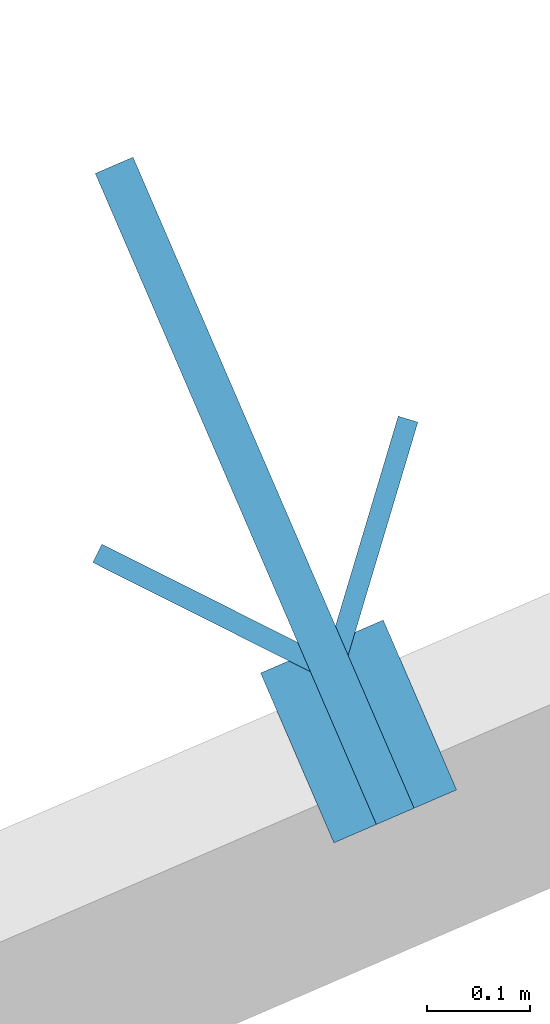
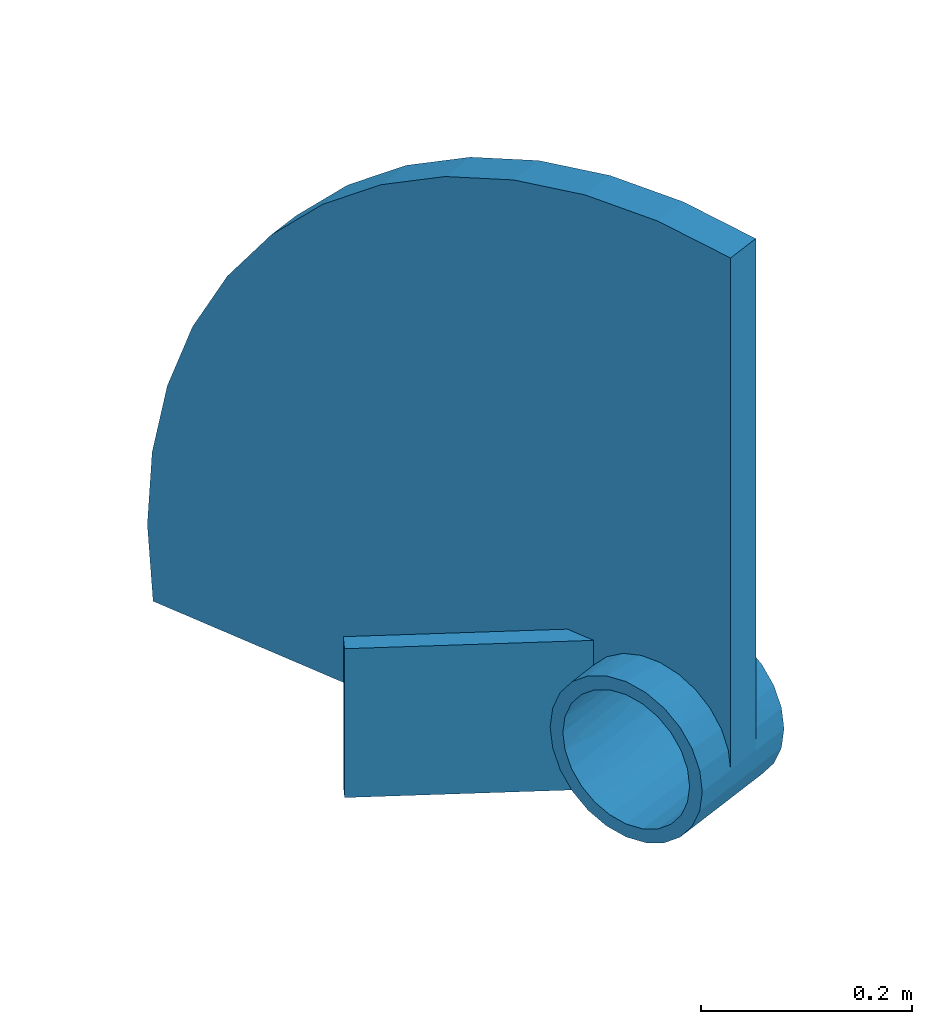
# One storey, part 5 of 5: 1 member.
"""IFC4 building model written with IfcOpenShell, lengths in metres."""

from ifc_helpers import new_model, entity, si_unit, converted_unit, derived_unit, direction, frame, origin, place, context, subcontext, project, spatial, polygons, source, transform, mapped, material, type_object, type_shapes, element, save


model = new_model("IFC4")

# Units and contexts
model_context = context("Model", 3, precision=1e-05, world=origin(), true_north=direction((6.12323399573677e-17, 1.0)))
body_context = subcontext(model_context, "Body", "Model", "MODEL_VIEW")
ifc_project = project(units=[si_unit("LENGTHUNIT", "METRE"), si_unit("AREAUNIT", "SQUARE_METRE"), si_unit("VOLUMEUNIT", "CUBIC_METRE"), converted_unit("PLANEANGLEUNIT", "DEGREE", entity("IfcPlaneAngleMeasure", 0.0174532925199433), si_unit("PLANEANGLEUNIT", "RADIAN"), dimensions=[0, 0, 0, 0, 0, 0, 0]), si_unit("MASSUNIT", "GRAM", prefix="KILO"), derived_unit("MOMENTOFINERTIAUNIT", [(si_unit("LENGTHUNIT", "METRE"), 4)]), derived_unit("LINEARFORCEUNIT", [(si_unit("MASSUNIT", "GRAM", prefix="KILO"), 1), (si_unit("TIMEUNIT", "SECOND"), -2)]), derived_unit("THERMALTRANSMITTANCEUNIT", [(si_unit("MASSUNIT", "GRAM", prefix="KILO"), 1), (si_unit("THERMODYNAMICTEMPERATUREUNIT", "KELVIN"), -1), (si_unit("TIMEUNIT", "SECOND"), -3)]), derived_unit("USERDEFINED", [(si_unit("MASSUNIT", "GRAM", prefix="KILO"), 1), (si_unit("TIMEUNIT", "SECOND"), -2), (si_unit("THERMODYNAMICTEMPERATUREUNIT", "KELVIN"), -1)]), derived_unit("THERMALRESISTANCEUNIT", [(si_unit("MASSUNIT", "GRAM", prefix="KILO"), -1), (si_unit("TIMEUNIT", "SECOND"), 3), (si_unit("THERMODYNAMICTEMPERATUREUNIT", "KELVIN"), 1)])], contexts=[model_context])

# Site, building, storey
site_placement = place(None, origin())
site = spatial("IfcSite", under=ifc_project, at=site_placement, Name="Default", CompositionType="ELEMENT")
building_placement = place(site_placement, frame((4.92348780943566, -84.5603392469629, 320.975), z_axis=(0.0, 0.0, 1.0), x_axis=(-0.396377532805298, 0.918087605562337, 0.0)))
building = spatial("IfcBuilding", under=site, at=building_placement, CompositionType="ELEMENT")
storey_placement = place(building_placement, frame((0.0, 0.0, 4.25)))
storey = spatial("IfcBuildingStorey", under=building, at=storey_placement, Name="Level 2", CompositionType="ELEMENT", Elevation=4.25)

# Member
ifc_material = material(Name="<Unnamed>")
member_type = type_object("IfcMemberType", Name="Union Metalica 4:Union Metalica 4", PredefinedType="PLATE", material=ifc_material)
shared_shape = source(origin(), body_context, "Body", "Tessellation", [
    polygons([(-0.0200000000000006, -8.12150346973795e-16, -0.09), (-0.0200000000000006, 0.020668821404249, -0.0875945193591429), (-0.0200000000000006, 0.0402169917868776, -0.0805145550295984), (-0.0200000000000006, 0.057618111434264, -0.0691386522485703), (-0.0200000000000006, 0.0719427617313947, -0.054076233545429), (-0.0200000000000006, 0.0719427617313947, -0.0900000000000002), (0.0200000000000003, 0.0719427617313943, -0.0540762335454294), (0.0200000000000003, 0.0576181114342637, -0.0691386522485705), (0.0200000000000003, 0.0402169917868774, -0.0805145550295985), (0.0200000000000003, 0.0206688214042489, -0.0875945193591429), (0.0200000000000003, -2.70716782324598e-16, -0.09), (0.0200000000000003, 0.0719427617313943, -0.0900000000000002), (-0.156966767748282, 0.266287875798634, 0.0825230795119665), (-0.172287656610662, 0.253432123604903, 0.0825230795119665), (-0.0200000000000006, 0.0719427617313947, 0.0825230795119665), (-0.0200000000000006, 0.103057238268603, 0.0825230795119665), (-0.0649999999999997, 0.09, -5.82050604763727e-16), (-0.0649999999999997, 0.0869333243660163, 0.0232937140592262), (-0.0649999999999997, 0.0779422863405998, 0.0449999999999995), (-0.0649999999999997, 0.0636396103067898, 0.0636396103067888), (-0.0649999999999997, 0.0450000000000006, 0.0779422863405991), (-0.0649999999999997, 0.0232937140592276, 0.086933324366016), (-0.0649999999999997, 6.6698289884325e-16, 0.09), (-0.0649999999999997, -0.0232937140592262, 0.0869333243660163), (-0.0649999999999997, -0.0449999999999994, 0.0779422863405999), (-0.0649999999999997, -0.0636396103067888, 0.0636396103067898), (-0.0649999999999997, -0.0779422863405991, 0.0450000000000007), (-0.0649999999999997, -0.0869333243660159, 0.0232937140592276), (-0.0649999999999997, -0.09, 8.31971483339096e-16), (-0.0200000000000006, -0.09, 8.31971483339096e-16), (-0.0200000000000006, -0.0872072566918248, 0.0222462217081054), (-0.0200000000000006, -0.0790038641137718, 0.0431090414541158), (-0.0200000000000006, -0.0658991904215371, 0.0612967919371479), (-0.0200000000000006, -0.0487071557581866, 0.0756809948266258), (-0.0200000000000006, -0.0284946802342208, 0.0853700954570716), (-0.0200000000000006, -0.00651568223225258, 0.0897638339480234), (-0.0200000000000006, 0.0158666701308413, 0.0885903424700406), (-0.0200000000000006, 0.0372644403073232, 0.0819228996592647), (-0.0200000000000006, 0.0563509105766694, 0.0701753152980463), (-0.0200000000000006, 0.071942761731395, 0.0540762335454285), (-0.0264981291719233, 0.079686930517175, 0.041832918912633), (-0.0312637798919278, 0.0853664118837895, 0.0285057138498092), (-0.0341734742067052, 0.0888340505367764, 0.0144399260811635), (-0.0351518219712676, 0.09, -7.4192272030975e-16), (0.0650000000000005, -0.09, 2.90343465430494e-16), (0.0650000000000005, -0.0869333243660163, -0.0232937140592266), (0.0650000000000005, -0.0779422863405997, -0.0449999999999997), (0.0650000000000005, -0.0636396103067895, -0.0636396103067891), (0.0650000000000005, -0.0450000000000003, -0.0779422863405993), (0.0650000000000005, -0.0232937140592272, -0.0869333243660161), (0.0650000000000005, -4.14535072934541e-16, -0.09), (0.0650000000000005, 0.0232937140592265, -0.0869333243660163), (0.0650000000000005, 0.0449999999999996, -0.0779422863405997), (0.0650000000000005, 0.0636396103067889, -0.0636396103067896), (0.0650000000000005, 0.0779422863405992, -0.0450000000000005), (0.0650000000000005, 0.086933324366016, -0.0232937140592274), (0.0650000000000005, 0.09, -4.54557967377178e-19), (0.0650000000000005, 0.0869333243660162, 0.0232937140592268), (0.0650000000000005, 0.0779422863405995, 0.045), (0.0650000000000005, 0.0636396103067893, 0.0636396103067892), (0.0650000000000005, 0.0450000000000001, 0.0779422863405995), (0.0650000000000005, 0.023293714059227, 0.0869333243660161), (0.0650000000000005, 1.26898491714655e-16, 0.09), (0.0650000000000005, -0.0232937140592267, 0.0869333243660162), (0.0650000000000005, -0.0449999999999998, 0.0779422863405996), (0.0650000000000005, -0.0636396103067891, 0.0636396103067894), (0.0650000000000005, -0.0779422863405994, 0.0450000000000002), (0.0650000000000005, -0.0869333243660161, 0.0232937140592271), (0.0650000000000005, -0.075, -2.42226404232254e-16), (0.0650000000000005, -0.0724444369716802, 0.0194114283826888), (0.0650000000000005, -0.0649519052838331, 0.0374999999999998), (0.0650000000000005, -0.0530330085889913, 0.0530330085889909), (0.0650000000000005, -0.0375000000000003, 0.0649519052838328), (0.0650000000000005, -0.0194114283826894, 0.0724444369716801), (0.0650000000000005, -3.46855877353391e-16, 0.075), (0.0650000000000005, 0.0194114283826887, 0.0724444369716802), (0.0650000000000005, 0.0374999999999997, 0.0649519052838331), (0.0650000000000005, 0.0530330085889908, 0.0530330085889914), (0.0650000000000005, 0.0649519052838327, 0.0375000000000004), (0.0650000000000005, 0.07244443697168, 0.0194114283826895), (0.0650000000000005, 0.075, 1.05281932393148e-19), (0.0650000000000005, 0.0724444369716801, -0.019411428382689), (0.0650000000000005, 0.0649519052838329, -0.0375), (0.0650000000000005, 0.0530330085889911, -0.053033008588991), (0.0650000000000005, 0.0375000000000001, -0.0649519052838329), (0.0650000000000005, 0.0194114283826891, -0.0724444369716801), (0.0650000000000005, 1.01518793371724e-16, -0.075), (0.0650000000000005, -0.0194114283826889, -0.0724444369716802), (0.0650000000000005, -0.0374999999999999, -0.064951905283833), (0.0650000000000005, -0.053033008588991, -0.0530330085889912), (0.0650000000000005, -0.0649519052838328, -0.0375000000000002), (0.0650000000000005, -0.0724444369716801, -0.0194114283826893), (-0.0649999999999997, 0.086933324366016, -0.0232937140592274), (-0.0649999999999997, 0.0779422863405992, -0.0450000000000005), (-0.0649999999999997, 0.0636396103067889, -0.0636396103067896), (-0.0649999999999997, 0.0449999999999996, -0.0779422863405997), (-0.0649999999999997, 0.0232937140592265, -0.0869333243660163), (-0.0649999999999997, -4.14535072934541e-16, -0.09), (-0.0649999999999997, -0.0232937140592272, -0.0869333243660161), (-0.0649999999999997, -0.0450000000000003, -0.0779422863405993), (-0.0649999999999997, -0.0636396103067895, -0.0636396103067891), (-0.0649999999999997, -0.0779422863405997, -0.0449999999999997), (-0.0649999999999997, -0.0869333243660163, -0.0232937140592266), (-0.0649999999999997, -0.075, -2.08919713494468e-16), (-0.0649999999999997, -0.0724444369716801, -0.0194114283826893), (-0.0649999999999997, -0.0649519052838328, -0.0375000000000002), (-0.0649999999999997, -0.053033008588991, -0.0530330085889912), (-0.0649999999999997, -0.0374999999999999, -0.064951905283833), (-0.0649999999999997, -0.0194114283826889, -0.0724444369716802), (-0.0649999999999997, 1.01518793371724e-16, -0.075), (-0.0649999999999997, 0.0194114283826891, -0.0724444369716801), (-0.0649999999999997, 0.0375000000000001, -0.0649519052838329), (-0.0649999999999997, 0.0530330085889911, -0.053033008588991), (-0.0649999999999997, 0.0649519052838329, -0.0375), (-0.0649999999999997, 0.0724444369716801, -0.019411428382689), (-0.0649999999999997, 0.075, 4.18155272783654e-16), (-0.0649999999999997, 0.07244443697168, 0.0194114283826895), (-0.0649999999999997, 0.0649519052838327, 0.0375000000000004), (-0.0649999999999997, 0.0530330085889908, 0.0530330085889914), (-0.0649999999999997, 0.0374999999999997, 0.0649519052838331), (-0.0649999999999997, 0.0194114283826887, 0.0724444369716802), (-0.0649999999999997, -3.46855877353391e-16, 0.075), (-0.0649999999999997, -0.0194114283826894, 0.0724444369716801), (-0.0649999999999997, -0.0375000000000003, 0.0649519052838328), (-0.0649999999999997, -0.0530330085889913, 0.0530330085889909), (-0.0649999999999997, -0.0649519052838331, 0.0374999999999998), (-0.0649999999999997, -0.0724444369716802, 0.0194114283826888), (0.0426243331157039, -0.075, -2.08919713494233e-16), (-0.0350199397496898, -0.075, -2.08919713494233e-16), (-0.0350199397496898, 0.075, 4.84768654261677e-16), (-0.0225653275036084, 0.075, 9.51062324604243e-16), (-0.0216053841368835, 0.0738559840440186, 0.013049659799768), (-0.0187548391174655, 0.0704588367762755, 0.0257012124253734), (-0.0141006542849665, 0.0649121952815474, 0.037568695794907), (-0.00778481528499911, 0.0573852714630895, 0.0482900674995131), (7.61390950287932e-17, 0.0481076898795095, 0.0575382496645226), (0.00778481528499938, 0.0573852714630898, 0.0482900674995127), (0.0141006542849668, 0.0649121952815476, 0.0375686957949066), (0.0187548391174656, 0.0704588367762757, 0.025701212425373), (0.0216053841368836, 0.0738559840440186, 0.0130496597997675), (0.0225653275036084, 0.075, 4.84768654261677e-16), (0.0426243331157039, 0.075, 5.51382035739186e-16), (0.0650000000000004, 0.07372221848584, 0.00970571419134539), (-0.0649999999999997, 0.07372221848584, 0.0097057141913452), (0.0216053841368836, 0.0738559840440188, -0.0130496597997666), (0.0187548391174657, 0.070458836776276, -0.0257012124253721), (0.0141006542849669, 0.0649121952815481, -0.0375686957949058), (0.00778481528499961, 0.0573852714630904, -0.048290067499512), (-8.45989944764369e-18, 0.0481076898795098, -0.0575382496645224), (-0.00778481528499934, 0.0573852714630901, -0.0482900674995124), (-0.0141006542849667, 0.0649121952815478, -0.0375686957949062), (-0.0187548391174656, 0.0704588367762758, -0.0257012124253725), (-0.0216053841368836, 0.0738559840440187, -0.0130496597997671), (0.0650000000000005, 0.0737222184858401, -0.00970571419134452), (-0.0649999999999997, 0.0737222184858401, -0.00970571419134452), (0.0200000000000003, -0.09, 1.30471349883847e-16), (-0.0341734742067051, 0.088834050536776, -0.0144399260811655), (-0.0312637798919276, 0.0853664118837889, -0.0285057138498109), (-0.0264981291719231, 0.0796869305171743, -0.0418329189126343), (0.0264981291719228, 0.0796869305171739, -0.0418329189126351), (0.0312637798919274, 0.0853664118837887, -0.0285057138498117), (0.034173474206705, 0.0888340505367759, -0.0144399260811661), (0.0351518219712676, 0.09, -1.14160300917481e-15), (0.0650000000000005, 0.088466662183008, -0.0116468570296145), (0.0650000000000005, 0.0824378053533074, -0.0341468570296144), (0.0650000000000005, 0.0707909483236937, -0.0543198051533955), (0.0650000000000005, 0.0543198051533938, -0.070790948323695), (-0.0649999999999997, 0.0543198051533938, -0.070790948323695), (-0.0649999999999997, 0.0707909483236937, -0.0543198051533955), (-0.0649999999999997, 0.0824378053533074, -0.0341468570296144), (-0.0649999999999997, 0.0884666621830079, -0.0116468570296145), (0.0341734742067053, 0.0888340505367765, 0.0144399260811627), (0.0312637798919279, 0.0853664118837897, 0.0285057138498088), (0.0264981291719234, 0.0796869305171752, 0.0418329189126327), (0.0200000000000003, 0.0719427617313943, 0.0540762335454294), (0.0200000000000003, 0.056350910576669, 0.0701753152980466), (0.0200000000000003, 0.0372644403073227, 0.0819228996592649), (0.0200000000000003, 0.0158666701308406, 0.0885903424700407), (0.0200000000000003, -0.00651568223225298, 0.0897638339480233), (0.0200000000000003, -0.0284946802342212, 0.0853700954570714), (0.0200000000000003, -0.0487071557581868, 0.0756809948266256), (0.0200000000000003, -0.0658991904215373, 0.0612967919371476), (0.0200000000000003, -0.079003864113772, 0.0431090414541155), (0.0200000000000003, -0.0872072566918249, 0.0222462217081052), (0.0200000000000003, 0.593211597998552, -0.090000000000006), (0.0200000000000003, 0.599987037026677, -0.00394403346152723), (0.0200000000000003, 0.594343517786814, 0.0821935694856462), (0.0200000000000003, 0.57639785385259, 0.166629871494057), (0.0200000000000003, 0.546521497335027, 0.247617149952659), (0.0200000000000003, 0.505332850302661, 0.323479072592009), (0.0200000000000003, 0.453684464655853, 0.39264539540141), (0.0200000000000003, 0.392645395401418, 0.453684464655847), (0.0200000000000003, 0.323479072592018, 0.505332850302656), (0.0200000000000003, 0.247617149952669, 0.546521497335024), (0.0200000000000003, 0.166629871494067, 0.576397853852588), (0.0200000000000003, 0.0821935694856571, 0.594343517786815), (0.0200000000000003, -0.00394403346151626, 0.59998703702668), (0.0200000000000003, -0.0899999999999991, 0.593211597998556), (0.0200000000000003, 0.0719427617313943, 0.0825230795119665), (0.0200000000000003, 0.103057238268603, 0.0825230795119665), (0.0200000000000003, 0.103057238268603, -0.0900000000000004), (-0.0200000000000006, -0.0899999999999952, 0.593211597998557), (-0.0200000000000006, -0.00394403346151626, 0.59998703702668), (-0.0200000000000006, 0.0821935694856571, 0.594343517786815), (-0.0200000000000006, 0.166629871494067, 0.576397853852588), (-0.0200000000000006, 0.247617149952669, 0.546521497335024), (-0.0200000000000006, 0.323479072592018, 0.505332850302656), (-0.0200000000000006, 0.392645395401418, 0.453684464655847), (-0.0200000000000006, 0.453684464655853, 0.39264539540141), (-0.0200000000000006, 0.505332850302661, 0.323479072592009), (-0.0200000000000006, 0.546521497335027, 0.247617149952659), (-0.0200000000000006, 0.57639785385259, 0.166629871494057), (-0.0200000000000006, 0.594343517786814, 0.0821935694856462), (-0.0200000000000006, 0.599987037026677, -0.00394403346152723), (-0.0200000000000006, 0.593211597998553, -0.0900000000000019), (-0.0200000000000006, 0.103057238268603, -0.0900000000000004), (0.156966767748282, 0.266287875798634, -0.0900000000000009), (0.172287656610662, 0.253432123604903, -0.0900000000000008), (-0.172287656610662, 0.253432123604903, -0.0900000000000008), (-0.156966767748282, 0.266287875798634, -0.0900000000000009), (0.172287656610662, 0.253432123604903, 0.0825230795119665), (0.156966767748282, 0.266287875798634, 0.0825230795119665)], [[[4, 5, 6, 1, 2, 3]], [[100, 101, 102, 103, 29, 28, 27, 26, 25, 24, 23, 22, 21, 20, 19, 18, 17, 171, 93, 170, 94, 169, 95, 168, 96, 97, 98, 99], [108, 109, 110, 111, 112, 113, 114, 115, 155, 116, 144, 117, 118, 119, 120, 121, 122, 123, 124, 125, 126, 127, 104, 105, 106, 107]], [[206, 207, 208, 209, 210, 211, 212, 213, 214, 215, 216, 16, 15, 40, 39, 38, 37, 36, 35, 34, 33, 32, 31, 30, 202, 203, 204, 205]], [[11, 12, 7, 8, 9, 10]], [[65, 66, 67, 68, 45, 46, 47, 48, 49, 50, 51, 52, 53, 167, 54, 166, 55, 165, 56, 164, 57, 58, 59, 60, 61, 62, 63, 64], [73, 74, 75, 76, 77, 78, 79, 80, 143, 81, 154, 82, 83, 84, 85, 86, 87, 88, 89, 90, 91, 92, 69, 70, 71, 72]], [[185, 186, 187, 188, 189, 190, 191, 192, 193, 194, 195, 196, 197, 198, 156, 184, 183, 182, 181, 180, 179, 178, 177, 176, 175, 199, 200, 201]], [[13, 14, 15, 16]], [[221, 222, 200, 199]], [[44, 17, 43]], [[163, 172, 57]], [[18, 43, 17]], [[19, 20, 40]], [[20, 21, 39]], [[18, 19, 42]], [[38, 21, 22]], [[43, 18, 42]], [[42, 19, 41]], [[40, 20, 39]], [[41, 19, 40]], [[39, 21, 38]], [[37, 38, 22]], [[22, 23, 37]], [[24, 36, 23]], [[25, 35, 24]], [[33, 26, 27]], [[27, 28, 32]], [[25, 26, 34]], [[29, 31, 28]], [[25, 34, 35]], [[35, 36, 24]], [[31, 32, 28]], [[33, 27, 32]], [[33, 34, 26]], [[30, 31, 29]], [[156, 45, 184]], [[23, 36, 37]], [[71, 70, 127, 126]], [[70, 69, 128, 129, 104, 127]], [[171, 17, 44]], [[164, 163, 57]], [[72, 71, 126, 125]], [[121, 76, 75, 122]], [[1, 11, 51, 50, 99, 98]], [[74, 73, 124, 123]], [[75, 74, 123, 122]], [[124, 73, 72, 125]], [[77, 76, 121, 120]], [[100, 99, 50, 49]], [[120, 136, 77]], [[137, 79, 78]], [[79, 137, 138]], [[79, 138, 139]], [[139, 80, 79]], [[136, 137, 78]], [[143, 142, 81]], [[116, 130, 144]], [[103, 46, 45, 156, 30, 29]], [[141, 142, 140, 132, 130, 131]], [[142, 143, 140]], [[139, 140, 80]], [[119, 135, 136]], [[132, 144, 130]], [[119, 118, 135]], [[134, 135, 118]], [[133, 134, 118]], [[143, 80, 140]], [[120, 119, 136]], [[117, 132, 133]], [[117, 144, 132]], [[118, 117, 133]], [[77, 136, 78]], [[145, 82, 154]], [[141, 131, 130, 153, 145, 142]], [[154, 81, 142]], [[116, 155, 130]], [[145, 146, 82]], [[148, 84, 83]], [[83, 146, 147]], [[83, 147, 148]], [[145, 154, 142]], [[82, 146, 83]], [[130, 155, 153]], [[115, 152, 153]], [[114, 150, 151]], [[152, 114, 151]], [[113, 150, 114]], [[115, 114, 152]], [[149, 150, 113]], [[155, 115, 153]], [[149, 84, 148]], [[87, 110, 109, 88]], [[85, 112, 111, 86]], [[110, 87, 86, 111]], [[89, 88, 109, 108]], [[128, 69, 92, 105, 104, 129]], [[91, 90, 107, 106]], [[91, 106, 105, 92]], [[107, 90, 89, 108]], [[113, 112, 149]], [[112, 85, 149]], [[84, 149, 85]], [[101, 48, 47, 102]], [[103, 102, 47, 46]], [[48, 101, 100, 49]], [[2, 98, 97]], [[163, 164, 162]], [[2, 1, 98]], [[51, 11, 10]], [[3, 2, 97]], [[7, 55, 166, 54]], [[97, 96, 3]], [[51, 10, 52]], [[52, 10, 9]], [[161, 56, 165]], [[8, 54, 167, 53]], [[169, 94, 5, 95]], [[95, 4, 96, 168]], [[4, 95, 5]], [[157, 93, 171]], [[94, 159, 5]], [[171, 44, 157]], [[94, 170, 159]], [[157, 158, 93]], [[158, 170, 93]], [[159, 170, 158]], [[8, 7, 54]], [[9, 8, 53]], [[7, 160, 55]], [[9, 53, 52]], [[161, 162, 56]], [[165, 55, 160]], [[162, 164, 56]], [[165, 160, 161]], [[4, 3, 96]], [[59, 173, 174]], [[58, 172, 173]], [[175, 176, 60]], [[61, 176, 177]], [[175, 59, 174]], [[178, 62, 177]], [[172, 58, 57]], [[59, 175, 60]], [[173, 59, 58]], [[61, 60, 176]], [[177, 62, 61]], [[178, 63, 62]], [[180, 64, 179]], [[181, 65, 180]], [[67, 182, 183]], [[183, 184, 68]], [[181, 182, 66]], [[180, 65, 64]], [[64, 63, 179]], [[68, 67, 183]], [[66, 182, 67]], [[66, 65, 181]], [[45, 68, 184]], [[179, 63, 178]], [[185, 215, 214, 186]], [[213, 187, 186, 214]], [[211, 210, 190, 189]], [[188, 212, 211, 189]], [[187, 213, 212, 188]], [[190, 210, 209, 191]], [[209, 208, 192, 191]], [[192, 208, 207, 193]], [[206, 194, 193, 207]], [[204, 203, 197, 196]], [[195, 205, 204, 196]], [[194, 206, 205, 195]], [[197, 203, 202, 198]], [[156, 198, 202, 30]], [[12, 11, 1, 6, 219, 220, 216, 215, 185, 201, 217, 218]], [[200, 222, 217, 201]], [[199, 175, 174, 173, 172, 163, 162, 161, 160, 7, 12, 218, 221]], [[222, 221, 218, 217]], [[14, 13, 220, 219]], [[14, 219, 6, 5, 159, 158, 157, 44, 43, 42, 41, 40, 15]], [[13, 16, 216, 220]], [[147, 151, 150, 148]], [[149, 148, 150]], [[147, 146, 152, 151]], [[153, 152, 146, 145]], [[139, 133, 132, 140]], [[134, 133, 139, 138]], [[135, 134, 138, 137]], [[136, 135, 137]]], closed=True),
])
type_shapes(member_type, [shared_shape])
member_placement = place(storey_placement, frame((-2.07683941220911, 2.11117704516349, -4.2500000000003), z_axis=(0.0, 0.0, 1.0), x_axis=(0.0, -1.0, 0.0)))
element("IfcMember", 1, at=member_placement, inside=storey, type_object=member_type, material=ifc_material, Name="Union Metalica 4:Union Metalica 4", ObjectType="Union Metalica 4:Union Metalica 4", PredefinedType="PLATE", context=body_context, shape_type="MappedRepresentation", body=[
    mapped(shared_shape, transform((0.0, 0.0, 0.0), scale=1.0)),
])

save(model, "model.ifc")
